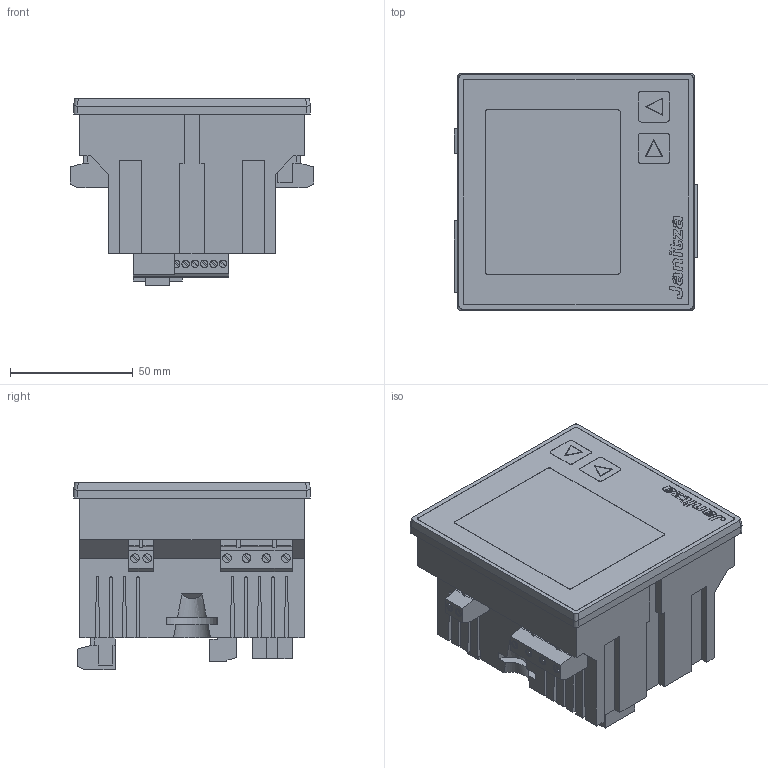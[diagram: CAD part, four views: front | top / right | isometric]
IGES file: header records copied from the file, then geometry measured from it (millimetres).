
Global section: file name: No Iges File Name specified; native system: AutoDesk Inventor R6.1; preprocessor: AutoDesk Inventor Iges Exporter R6.1; author: No Author specified; organization: No Organization specified; date: 20130502.220711; units: millimetre
Bounding box: 99 x 96.5 x 76.5 mm (x, y, z)
Surface area: 71430.1 mm2 (no closed solid volume)
Topology: 0 solids, 0 shells, 908 faces, 4826 edges, 4793 vertices
Faces by surface type: plane 691, bspline 126, revolution 91
